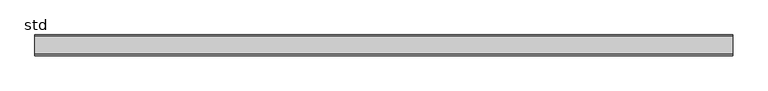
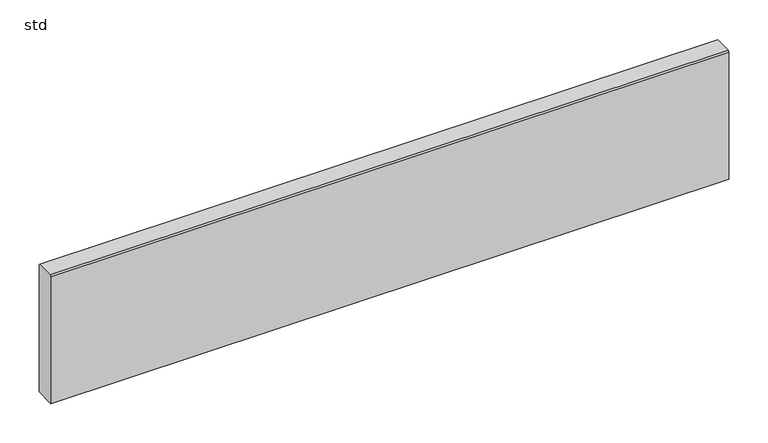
"""IFC4 building model written with IfcOpenShell, lengths in millimetres: proxy geometry, 400_24_NS_stootbord : std."""

from ifc_helpers import new_model, si_unit, frame, origin, place, context, project, spatial, polyline, outline, extrude, source, transform, mapped, element, save


def std_e08fb664(model_context):
    return source(origin(), model_context, "Body", "SweptSolid", [
        extrude(outline(polyline([(30.0, 30.0), (0.0, 30.0), (0.0, 228.0), (2.0, 230.0), (28.0, 230.0), (30.0, 228.0), (30.0, 30.0)])), frame((-500.0, 0.0, 0.0), z_axis=(1.0, 0.0, 0.0), x_axis=(0.0, 1.0, 0.0)), (0.0, 0.0, 1.0), 1000.0),
    ])


if __name__ == "__main__":
    model = new_model("IFC4")
    model_context = context("Model", 3, world=origin())
    ifc_project = project(units=[si_unit("LENGTHUNIT", "METRE", prefix="MILLI")], contexts=[model_context])
    site = spatial("IfcSite", under=ifc_project)
    building = spatial("IfcBuilding", under=site)
    placement = place(None, origin())
    std_shape = std_e08fb664(model_context)
    element("IfcBuildingElementProxy", 1, Name="400_24_NS_stootbord : std", ObjectType="400_24_NS_stootbord : std", at=placement, inside=building, context=model_context, shape_type="MappedRepresentation", body=[
        mapped(std_shape, transform((0.0, 0.0, 0.0), x_axis=(1.0, 0.0, 0.0), y_axis=(0.0, 1.0, 0.0), z_axis=(0.0, 0.0, 1.0))),
    ])
    save(model, "model.ifc")
